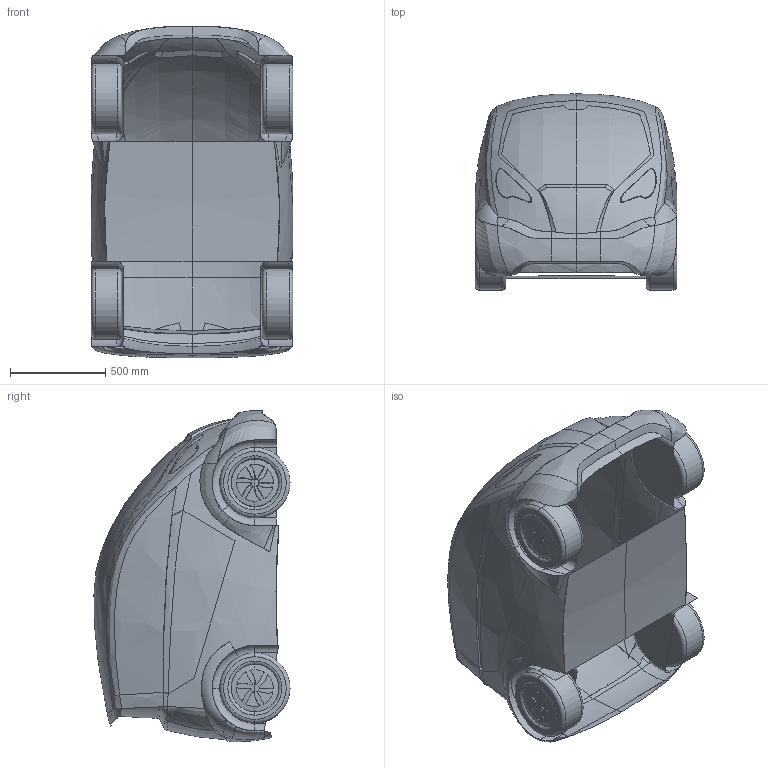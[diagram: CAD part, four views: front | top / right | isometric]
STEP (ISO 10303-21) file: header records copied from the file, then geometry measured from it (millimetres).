
FILE_DESCRIPTION (( 'STEP AP203' ), '1' );
FILE_NAME ('Assemblage2.STEP', '2011-11-30T06:26:09', ( '' ), ( '' ), 'SwSTEP 2.0', 'SolidWorks 2011', '' );
FILE_SCHEMA (( 'CONFIG_CONTROL_DESIGN' ));
Products named in the file (2): Assemblage2; VOITURE 2LECTRIC
Assembly tree (1 placements, depth 2):
  Assemblage2
    VOITURE 2LECTRIC
Bounding box: 1062.28 x 1031.64 x 1742.71 mm (x, y, z)
Surface area: 8227898.9 mm2 (no closed solid volume)
Topology: 0 solids, 70 shells, 408 faces, 1253 edges, 927 vertices
Faces by surface type: bspline 192, torus 76, plane 70, cylinder 62, sphere 8
Entity records: 69790 total; most frequent: CARTESIAN_POINT 60454, ORIENTED_EDGE 2035, DIRECTION 1247, EDGE_CURVE 1247, VERTEX_POINT 927, B_SPLINE_CURVE_WITH_KNOTS 739, AXIS2_PLACEMENT_3D 523, EDGE_LOOP 430
